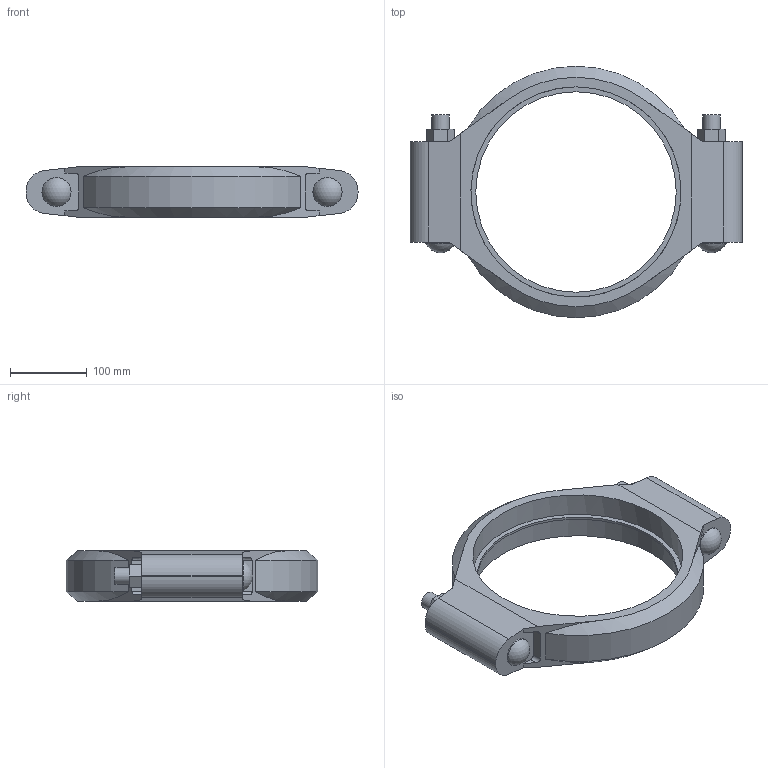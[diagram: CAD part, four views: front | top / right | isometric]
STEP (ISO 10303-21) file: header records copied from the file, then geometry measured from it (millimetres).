
FILE_DESCRIPTION(/* description */ ('VIC COUPLING STYLE 07 RIGID','CAx-IF Rec.Pracs.---Representation and Presentation of Product Manufacturing Information (PMI)---4.0---2014-10-13'),/* implementation_level */ '2;1');
FILE_NAME(/* name */ 'C:\Users\kkamble\Desktop\KIRAN\2022\Updated Couplings\007\Victaulic_IPS_Coupling Rigid_Style 07 (OGS)\Victaulic_IPS_Coupling Rigid_Style 07 (OGS)_10 (250).stp',/* time_stamp */ '2022-03-25T09:57:10+05:00',/* author */ ('jheald'),/* organization */ ('Victaulic'),/* preprocessor_version */ 'ST-DEVELOPER v17.2',/* originating_system */ 'Autodesk Inventor 2019',/* authorisation */ '');
FILE_SCHEMA (('AP242_MANAGED_MODEL_BASED_3D_ENGINEERING_MIM_LF { 1 0 10303 442 1 1 4 }'));
Length unit declared in the file: inch
Products named in the file (1): 07-10.0
Bounding box: 431.29 x 326.64 x 65.02 mm (x, y, z)
Volume: 2341264.7 mm3; surface area: 261321.8 mm2
Topology: 1 solids, 3 shells, 87 faces, 239 edges, 162 vertices
Faces by surface type: plane 54, cylinder 27, cone 4, sphere 2
Full cylindrical faces by diameter (mm): 22.225 x4, 37.694 x2, 260.35 x1, 273.05 x2
Entity records: 3036 total; most frequent: CARTESIAN_POINT 522, DIRECTION 507, ORIENTED_EDGE 478, EDGE_CURVE 239, AXIS2_PLACEMENT_3D 175, VERTEX_POINT 162, LINE 157, VECTOR 157
